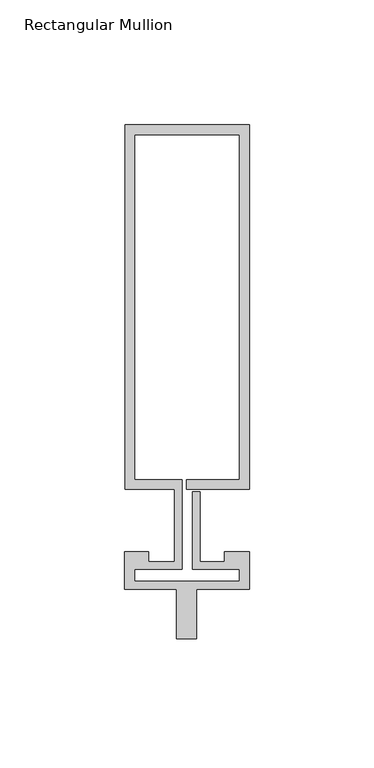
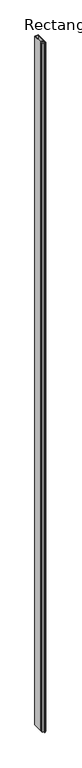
"""IFC4 building model written with IfcOpenShell, lengths in millimetres: member geometry, Rectangular Mullion : Reynaers_CW-50_Mullion-Transom_Vertical_146.5mm_Facecap-06A."""

from ifc_helpers import new_model, si_unit, frame, origin, place, context, project, spatial, polyline, outline, extrude, source, transform, mapped, element, save


def rectangular_mullion_731bb1fa(model_context):
    return source(origin(), model_context, "Body", "SweptSolid", [
        extrude(outline(polyline([(-24.8004059, 159.0), (25.1995941, 159.0), (25.1995941, 12.5), (0.0, 12.5), (0.0, 16.5), (21.1995941, 16.5), (21.1995941, 155.0), (-20.8004059, 155.0), (-20.8004059, 16.5), (-1.9004059, 16.5), (-1.9004059, -19.5), (-20.994845, -19.5), (-20.994845, -24.4191338), (21.1995941, -24.4191338), (21.1995941, -19.5), (2.2995941, -19.5), (2.2995941, 11.5), (5.2995941, 11.5), (5.2995941, -16.5), (15.2996495, -16.5), (15.2996495, -12.5), (25.1995941, -12.5), (25.1995941, -27.5), (4.004855, -27.5), (4.004855, -47.5), (-3.995145, -47.5), (-3.995145, -27.5), (-24.994845, -27.5), (-24.994845, -12.5), (-15.2996495, -12.5), (-15.2996495, -16.5), (-4.9004059, -16.5), (-4.9004059, 12.5), (-24.8004059, 12.5), (-24.8004059, 159.0)])), frame((0.0, 0.0, -10400.0), z_axis=(0.0, 0.0, 1.0), x_axis=(1.0, 0.0, 0.0)), (0.0, 0.0, 1.0), 10400.0),
    ])


if __name__ == "__main__":
    model = new_model("IFC4")
    model_context = context("Model", 3, world=origin())
    ifc_project = project(units=[si_unit("LENGTHUNIT", "METRE", prefix="MILLI")], contexts=[model_context])
    site = spatial("IfcSite", under=ifc_project)
    building = spatial("IfcBuilding", under=site)
    placement = place(None, origin())
    rectangular_mullion_shape = rectangular_mullion_731bb1fa(model_context)
    element("IfcMember", 1, ObjectType="Rectangular Mullion : Reynaers_CW-50_Mullion-Transom_Vertical_146.5mm_Facecap-06A", at=placement, inside=building, context=model_context, shape_type="MappedRepresentation", body=[
        mapped(rectangular_mullion_shape, transform((0.0, 0.0, 0.0), x_axis=(1.0, 0.0, 0.0), y_axis=(0.0, 1.0, 0.0), z_axis=(0.0, 0.0, 1.0))),
    ])
    save(model, "model.ifc")
